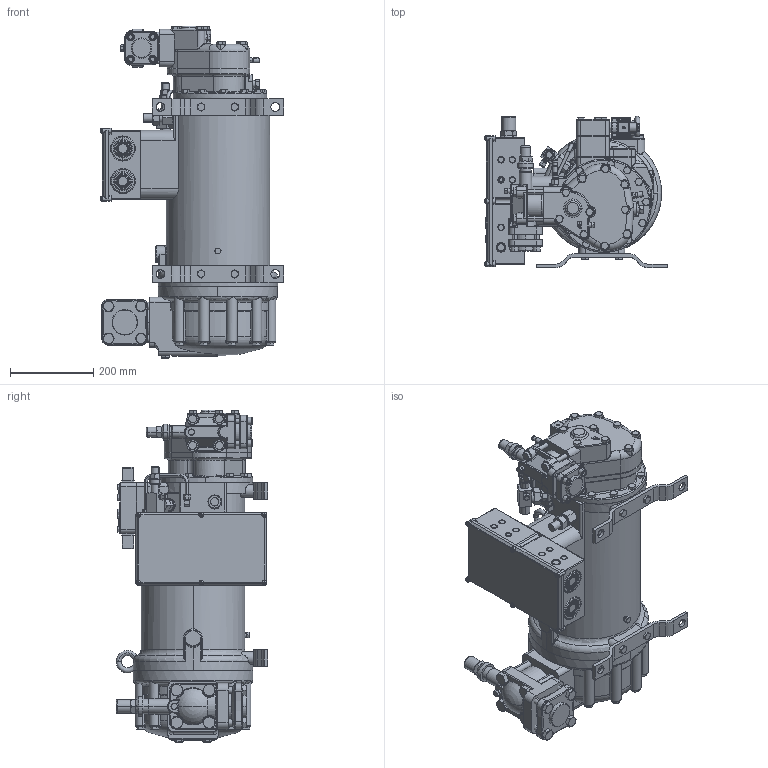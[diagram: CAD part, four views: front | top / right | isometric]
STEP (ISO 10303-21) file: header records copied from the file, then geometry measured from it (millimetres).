
FILE_DESCRIPTION(('STEP AP203'), '1');
FILE_NAME('HS53.stp', '2011-02-09T09:19:29', ('UNSPECIFIED'), ('UNSPECIFIED'), 'ASCON STEP Converter 1.0', 'Kompas 3D', '');
FILE_SCHEMA(('CONFIG_CONTROL_DESIGN'));
Length unit declared in the file: millimetre
Products named in the file (33): 42; 43; 44; 45; 46; 47; 48; 49; 50; 51; 52; 53; 54; 55; 56; 57; 58; 59; 60; 61; 62; 63; 64; 65; 66; 67; 68; 69; 70; 71; 72; 73; 74
Assembly tree (94 placements, depth 3):
  42
    43
    44
      45
      46  x12
      47
    48
      49
      50  x4
      51
      52
      53
      54
      55
    56
    57  x2
    58  x2
    59
      60
      46  x21
      61
      47
      62
    63
      64
      65  x4
      66  x4
      67
    68  x12
    69  x2
    70
    46  x4
    47
    71
    72  x2
    73
    74
Bounding box: 438.99 x 363 x 795.4 mm (x, y, z)
Volume: 19979345.4 mm3; surface area: 2201233.2 mm2
Topology: 88 solids, 90 shells, 3444 faces, 8227 edges, 5108 vertices
Faces by surface type: plane 1418, cylinder 1099, cone 453, torus 304, bspline 131, sphere 39
Entity records: 114722 total; most frequent: CARTESIAN_POINT 53628, DIRECTION 11466, ORIENTED_EDGE 11440, EDGE_CURVE 5724, AXIS2_PLACEMENT_3D 4640, VERTEX_POINT 3560, EDGE_LOOP 2628, ADVANCED_FACE 2385
